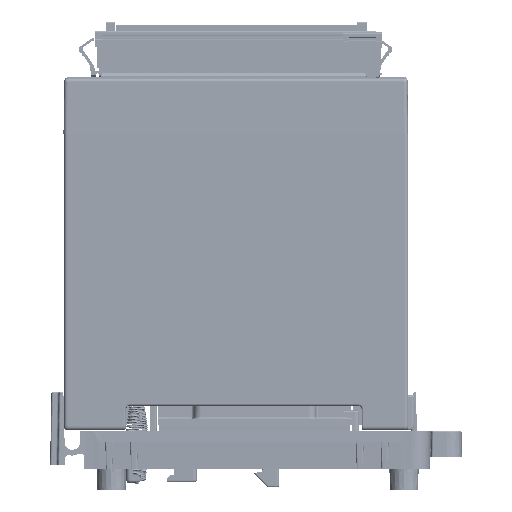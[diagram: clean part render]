
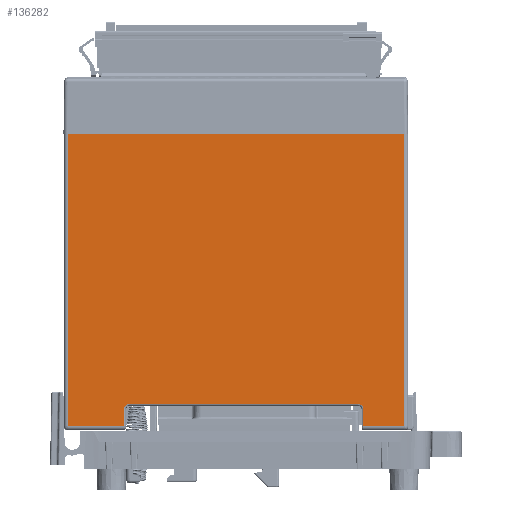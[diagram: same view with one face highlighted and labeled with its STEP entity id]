
A CAD part, left-side view. The second image highlights one B-rep face of the part: STEP entity #136282.
In plain terms, the highlighted planar face has unit normal (-1, 0, 0) as drawn and (0, 0, 1) by its records, which use the part's own axes.
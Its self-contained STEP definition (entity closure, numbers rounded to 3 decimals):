
#114563=DIRECTION('',(0.,-1.,0.));
#114564=VECTOR('',#114563,76.5);
#114565=CARTESIAN_POINT('',(-44.,38.75,1.));
#114566=LINE('',#114565,#114564);
#122591=DIRECTION('',(0.,1.,0.));
#122592=VECTOR('',#122591,76.5);
#122593=CARTESIAN_POINT('',(44.,-37.75,1.));
#122594=LINE('',#122593,#122592);
#122598=CARTESIAN_POINT('',(33.3,-33.333,
1.));
#122599=CARTESIAN_POINT('',(33.297,-33.165,
1.));
#122600=CARTESIAN_POINT('',(33.248,-32.852,
1.));
#122601=CARTESIAN_POINT('',(33.029,-32.432,
1.));
#122602=CARTESIAN_POINT('',(32.7,-32.103,
1.));
#122603=CARTESIAN_POINT('',(32.28,-31.885,
1.));
#122604=CARTESIAN_POINT('',(31.967,-31.835,1.));
#122605=CARTESIAN_POINT('',(31.8,-31.832,1.));
#122610=CARTESIAN_POINT('',(-27.8,-31.832,
1.));
#122611=CARTESIAN_POINT('',(-27.967,-31.835,
1.));
#122612=CARTESIAN_POINT('',(-28.281,-31.885,
1.));
#122613=CARTESIAN_POINT('',(-28.701,-32.103,
1.));
#122614=CARTESIAN_POINT('',(-29.03,-32.433,
1.));
#122615=CARTESIAN_POINT('',(-29.248,-32.853,
1.));
#122616=CARTESIAN_POINT('',(-29.297,-33.166,1.));
#122617=CARTESIAN_POINT('',(-29.3,-33.333,1.));
#122622=DIRECTION('',(1.,0.,0.));
#122623=VECTOR('',#122622,88.);
#122624=CARTESIAN_POINT('',(-44.,38.75,1.));
#122625=LINE('',#122624,#122623);
#122652=DIRECTION('',(0.,-1.,0.));
#122653=VECTOR('',#122652,4.417);
#122654=CARTESIAN_POINT('',(33.3,-33.333,
1.));
#122655=LINE('',#122654,#122653);
#122707=DIRECTION('',(1.,0.,0.));
#122708=VECTOR('',#122707,10.7);
#122709=CARTESIAN_POINT('',(33.3,-37.75,1.));
#122710=LINE('',#122709,#122708);
#122785=DIRECTION('',(1.,0.,0.));
#122786=VECTOR('',#122785,59.6);
#122787=CARTESIAN_POINT('',(-27.8,-31.832,
1.));
#122788=LINE('',#122787,#122786);
#122881=DIRECTION('',(0.,1.,0.));
#122882=VECTOR('',#122881,4.417);
#122883=CARTESIAN_POINT('',(-29.3,-37.75,1.));
#122884=LINE('',#122883,#122882);
#123507=DIRECTION('',(1.,0.,0.));
#123508=VECTOR('',#123507,14.7);
#123509=CARTESIAN_POINT('',(-44.,-37.75,1.));
#123510=LINE('',#123509,#123508);
#128136=CARTESIAN_POINT('',(-44.,-37.75,1.));
#128137=VERTEX_POINT('',#128136);
#128140=CARTESIAN_POINT('',(-44.,38.75,1.));
#128142=VERTEX_POINT('',#128140);
#128152=CARTESIAN_POINT('',(44.,38.75,1.));
#128153=VERTEX_POINT('',#128152);
#129593=CARTESIAN_POINT('',(44.,-37.75,1.));
#129594=VERTEX_POINT('',#129593);
#129595=CARTESIAN_POINT('',(33.3,-33.333,
1.));
#129596=CARTESIAN_POINT('',(33.3,-37.75,1.));
#129597=VERTEX_POINT('',#129595);
#129598=VERTEX_POINT('',#129596);
#129599=VERTEX_POINT('',#122605);
#129600=CARTESIAN_POINT('',(-27.8,-31.832,
1.));
#129601=VERTEX_POINT('',#129600);
#129602=VERTEX_POINT('',#122617);
#129603=CARTESIAN_POINT('',(-29.3,-37.75,1.));
#129604=VERTEX_POINT('',#129603);
#136258=CARTESIAN_POINT('',(0.,0.5,1.));
#136259=DIRECTION('',(0.,0.,1.));
#136260=DIRECTION('',(1.,0.,0.));
#136261=AXIS2_PLACEMENT_3D('',#136258,#136259,#136260);
#136262=PLANE('',#136261);
#136264=ORIENTED_EDGE('',*,*,#136263,.F.);
#136266=ORIENTED_EDGE('',*,*,#136265,.T.);
#136268=ORIENTED_EDGE('',*,*,#136267,.F.);
#136270=ORIENTED_EDGE('',*,*,#136269,.T.);
#136272=ORIENTED_EDGE('',*,*,#136271,.F.);
#136274=ORIENTED_EDGE('',*,*,#136273,.F.);
#136275=ORIENTED_EDGE('',*,*,#130339,.F.);
#136276=ORIENTED_EDGE('',*,*,#130362,.T.);
#136277=ORIENTED_EDGE('',*,*,#136252,.F.);
#136279=ORIENTED_EDGE('',*,*,#136278,.F.);
#136280=EDGE_LOOP('',(#136264,#136266,#136268,#136270,#136272,#136274,#136275,
#136276,#136277,#136279));
#136281=FACE_OUTER_BOUND('',#136280,.F.);
#122606=B_SPLINE_CURVE_WITH_KNOTS('',3,(#122598,#122599,#122600,#122601,#122602,
#122603,#122604,#122605),.UNSPECIFIED.,.F.,.F.,(4,1,1,1,1,4),(0.,0.2,0.4,
0.6,0.8,1.),.UNSPECIFIED.);
#122618=B_SPLINE_CURVE_WITH_KNOTS('',3,(#122610,#122611,#122612,#122613,#122614,
#122615,#122616,#122617),.UNSPECIFIED.,.F.,.F.,(4,1,1,1,1,4),(0.,0.2,0.4,
0.6,0.8,1.),.UNSPECIFIED.);
#130339=EDGE_CURVE('',#128142,#128137,#114566,.T.);
#130362=EDGE_CURVE('',#128142,#128153,#122625,.T.);
#136252=EDGE_CURVE('',#129594,#128153,#122594,.T.);
#136263=EDGE_CURVE('',#129597,#129598,#122655,.T.);
#136265=EDGE_CURVE('',#129597,#129599,#122606,.T.);
#136267=EDGE_CURVE('',#129601,#129599,#122788,.T.);
#136269=EDGE_CURVE('',#129601,#129602,#122618,.T.);
#136271=EDGE_CURVE('',#129604,#129602,#122884,.T.);
#136273=EDGE_CURVE('',#128137,#129604,#123510,.T.);
#136278=EDGE_CURVE('',#129598,#129594,#122710,.T.);
#136282=ADVANCED_FACE('',(#136281),#136262,.T.);
